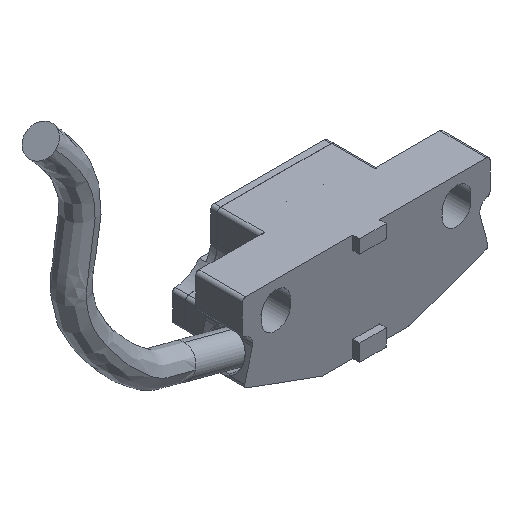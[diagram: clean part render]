
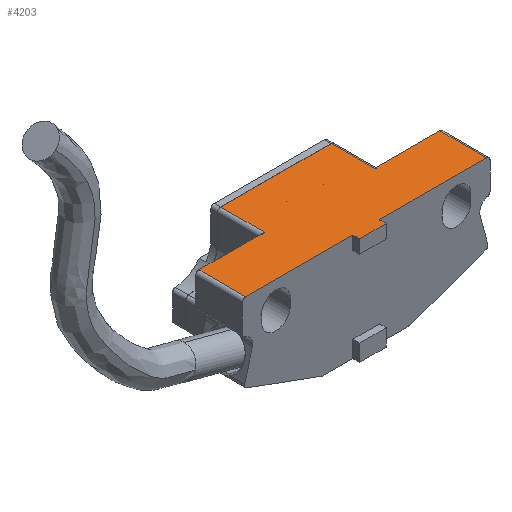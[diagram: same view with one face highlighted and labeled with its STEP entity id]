
A CAD part, isometric view. The second image highlights one B-rep face of the part: STEP entity #4203.
In plain terms, the highlighted planar face has unit normal (0, 0, 1).
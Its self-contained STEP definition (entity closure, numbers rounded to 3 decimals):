
#146 = CARTESIAN_POINT ( 'NONE',  ( -8.25, 7., 15.5 ) ) ;
#441 = VECTOR ( 'NONE', #959, 1000. ) ;
#470 = CARTESIAN_POINT ( 'NONE',  ( 0., 0., 15.5 ) ) ;
#537 = VERTEX_POINT ( 'NONE', #7848 ) ;
#611 = VECTOR ( 'NONE', #2290, 1000. ) ;
#833 = CARTESIAN_POINT ( 'NONE',  ( -18., 7., 15.5 ) ) ;
#890 = VECTOR ( 'NONE', #3180, 1000. ) ;
#959 = DIRECTION ( 'NONE',  ( 0., 1., 0. ) ) ;
#1005 = VERTEX_POINT ( 'NONE', #2206 ) ;
#1195 = VERTEX_POINT ( 'NONE', #5755 ) ;
#1203 = CARTESIAN_POINT ( 'NONE',  ( -2., -1., 15.5 ) ) ;
#1431 = CARTESIAN_POINT ( 'NONE',  ( -18.5, 7., 15.5 ) ) ;
#1478 = VECTOR ( 'NONE', #3788, 1000. ) ;
#1645 = VERTEX_POINT ( 'NONE', #6449 ) ;
#1787 = CARTESIAN_POINT ( 'NONE',  ( 2., 0., 15.5 ) ) ;
#1921 = EDGE_CURVE ( 'NONE', #2342, #537, #6606, .T. ) ;
#2006 = DIRECTION ( 'NONE',  ( -1., 0., 0. ) ) ;
#2031 = LINE ( 'NONE', #146, #4851 ) ;
#2059 = CARTESIAN_POINT ( 'NONE',  ( -2., -1., 15.5 ) ) ;
#2164 = EDGE_CURVE ( 'NONE', #9832, #1645, #10497, .T. ) ;
#2206 = CARTESIAN_POINT ( 'NONE',  ( -8.25, 7., 15.5 ) ) ;
#2218 = VECTOR ( 'NONE', #10288, 1000. ) ;
#2290 = DIRECTION ( 'NONE',  ( 0., -1., 0. ) ) ;
#2342 = VERTEX_POINT ( 'NONE', #1203 ) ;
#2351 = DIRECTION ( 'NONE',  ( -1., 0., 0. ) ) ;
#2402 = CARTESIAN_POINT ( 'NONE',  ( -8.75, 13.5, 15.5 ) ) ;
#2413 = VECTOR ( 'NONE', #8462, 1000. ) ;
#2559 = DIRECTION ( 'NONE',  ( -1., 0., 0. ) ) ;
#2595 = VECTOR ( 'NONE', #8074, 1000. ) ;
#2774 = ORIENTED_EDGE ( 'NONE', *, *, #10849, .T. ) ;
#3026 = VERTEX_POINT ( 'NONE', #4281 ) ;
#3180 = DIRECTION ( 'NONE',  ( 1., 0., 0. ) ) ;
#3236 = LINE ( 'NONE', #9423, #2218 ) ;
#3532 = LINE ( 'NONE', #7041, #611 ) ;
#3534 = VECTOR ( 'NONE', #6486, 1000. ) ;
#3551 = AXIS2_PLACEMENT_3D ( 'NONE', #470, #5704, #2006 ) ;
#3558 = EDGE_CURVE ( 'NONE', #537, #9832, #4978, .T. ) ;
#3645 = ORIENTED_EDGE ( 'NONE', *, *, #11019, .T. ) ;
#3788 = DIRECTION ( 'NONE',  ( 1., 0., 0. ) ) ;
#3962 = LINE ( 'NONE', #2402, #7758 ) ;
#3974 = VERTEX_POINT ( 'NONE', #833 ) ;
#4203 = ADVANCED_FACE ( 'NONE', ( #7358 ), #5651, .F. ) ;
#4225 = VERTEX_POINT ( 'NONE', #8261 ) ;
#4281 = CARTESIAN_POINT ( 'NONE',  ( 18., 7., 15.5 ) ) ;
#4458 = CARTESIAN_POINT ( 'NONE',  ( 18.5, 0., 15.5 ) ) ;
#4682 = DIRECTION ( 'NONE',  ( 0., -1., 0. ) ) ;
#4711 = LINE ( 'NONE', #5640, #2595 ) ;
#4737 = ORIENTED_EDGE ( 'NONE', *, *, #9185, .T. ) ;
#4770 = EDGE_CURVE ( 'NONE', #3026, #5899, #9465, .T. ) ;
#4851 = VECTOR ( 'NONE', #4682, 1000. ) ;
#4978 = LINE ( 'NONE', #5031, #2413 ) ;
#5031 = CARTESIAN_POINT ( 'NONE',  ( 2., -1., 15.5 ) ) ;
#5394 = DIRECTION ( 'NONE',  ( 1., 0., 0. ) ) ;
#5464 = ORIENTED_EDGE ( 'NONE', *, *, #10186, .T. ) ;
#5531 = VECTOR ( 'NONE', #5394, 1000. ) ;
#5556 = EDGE_CURVE ( 'NONE', #1195, #4225, #6686, .T. ) ;
#5640 = CARTESIAN_POINT ( 'NONE',  ( 8.25, 13.5, 15.5 ) ) ;
#5651 = PLANE ( 'NONE',  #3551 ) ;
#5704 = DIRECTION ( 'NONE',  ( 0., 0., -1. ) ) ;
#5755 = CARTESIAN_POINT ( 'NONE',  ( -18., 0., 15.5 ) ) ;
#5866 = CARTESIAN_POINT ( 'NONE',  ( 8.75, 7., 15.5 ) ) ;
#5899 = VERTEX_POINT ( 'NONE', #10929 ) ;
#6264 = ORIENTED_EDGE ( 'NONE', *, *, #9682, .T. ) ;
#6449 = CARTESIAN_POINT ( 'NONE',  ( 18., 0., 15.5 ) ) ;
#6486 = DIRECTION ( 'NONE',  ( -1., 0., 0. ) ) ;
#6606 = LINE ( 'NONE', #2059, #1478 ) ;
#6686 = LINE ( 'NONE', #9368, #890 ) ;
#7035 = LINE ( 'NONE', #8577, #441 ) ;
#7041 = CARTESIAN_POINT ( 'NONE',  ( -18., 0., 15.5 ) ) ;
#7269 = EDGE_CURVE ( 'NONE', #10658, #1005, #2031, .T. ) ;
#7358 = FACE_OUTER_BOUND ( 'NONE', #10150, .T. ) ;
#7757 = ORIENTED_EDGE ( 'NONE', *, *, #4770, .T. ) ;
#7758 = VECTOR ( 'NONE', #2559, 1000. ) ;
#7848 = CARTESIAN_POINT ( 'NONE',  ( 2., -1., 15.5 ) ) ;
#7866 = ORIENTED_EDGE ( 'NONE', *, *, #1921, .T. ) ;
#8074 = DIRECTION ( 'NONE',  ( 0., 1., 0. ) ) ;
#8201 = LINE ( 'NONE', #1431, #3534 ) ;
#8261 = CARTESIAN_POINT ( 'NONE',  ( -2., 0., 15.5 ) ) ;
#8310 = ORIENTED_EDGE ( 'NONE', *, *, #5556, .T. ) ;
#8462 = DIRECTION ( 'NONE',  ( 0., 1., 0. ) ) ;
#8577 = CARTESIAN_POINT ( 'NONE',  ( 18., 7., 15.5 ) ) ;
#9185 = EDGE_CURVE ( 'NONE', #1645, #3026, #7035, .T. ) ;
#9227 = ORIENTED_EDGE ( 'NONE', *, *, #10925, .T. ) ;
#9368 = CARTESIAN_POINT ( 'NONE',  ( -2., 0., 15.5 ) ) ;
#9423 = CARTESIAN_POINT ( 'NONE',  ( -2., 0., 15.5 ) ) ;
#9465 = LINE ( 'NONE', #5866, #10545 ) ;
#9682 = EDGE_CURVE ( 'NONE', #4225, #2342, #3236, .T. ) ;
#9686 = VERTEX_POINT ( 'NONE', #11220 ) ;
#9757 = ORIENTED_EDGE ( 'NONE', *, *, #2164, .T. ) ;
#9832 = VERTEX_POINT ( 'NONE', #1787 ) ;
#9910 = ORIENTED_EDGE ( 'NONE', *, *, #3558, .T. ) ;
#10150 = EDGE_LOOP ( 'NONE', ( #3645, #11340, #9227, #2774, #8310, #6264, #7866, #9910, #9757, #4737, #7757, #5464 ) ) ;
#10186 = EDGE_CURVE ( 'NONE', #5899, #9686, #4711, .T. ) ;
#10288 = DIRECTION ( 'NONE',  ( 0., -1., 0. ) ) ;
#10497 = LINE ( 'NONE', #4458, #5531 ) ;
#10545 = VECTOR ( 'NONE', #2351, 1000. ) ;
#10658 = VERTEX_POINT ( 'NONE', #11079 ) ;
#10849 = EDGE_CURVE ( 'NONE', #3974, #1195, #3532, .T. ) ;
#10925 = EDGE_CURVE ( 'NONE', #1005, #3974, #8201, .T. ) ;
#10929 = CARTESIAN_POINT ( 'NONE',  ( 8.25, 7., 15.5 ) ) ;
#11019 = EDGE_CURVE ( 'NONE', #9686, #10658, #3962, .T. ) ;
#11079 = CARTESIAN_POINT ( 'NONE',  ( -8.25, 13.5, 15.5 ) ) ;
#11220 = CARTESIAN_POINT ( 'NONE',  ( 8.25, 13.5, 15.5 ) ) ;
#11340 = ORIENTED_EDGE ( 'NONE', *, *, #7269, .T. ) ;
